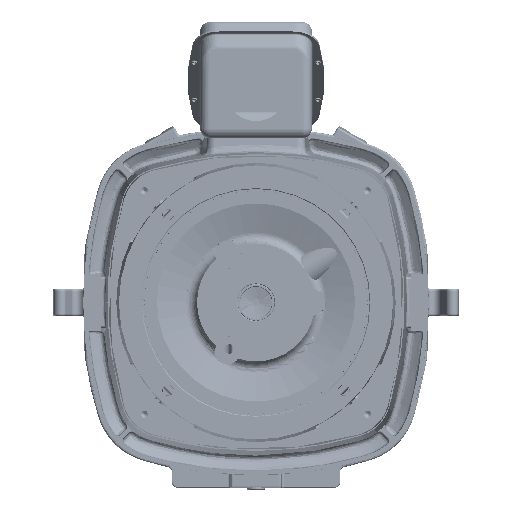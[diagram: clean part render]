
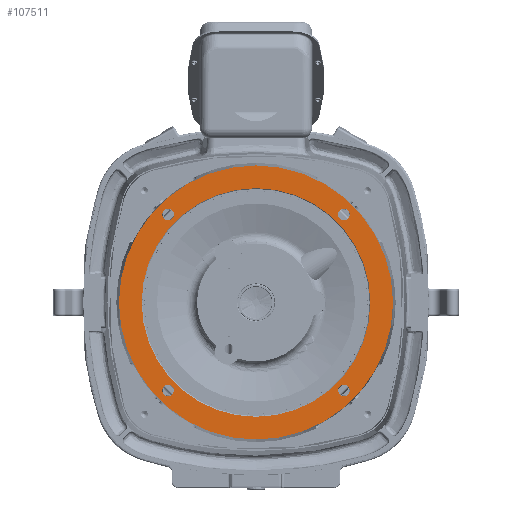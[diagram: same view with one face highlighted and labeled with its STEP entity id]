
A CAD part, front view. The second image highlights one B-rep face of the part: STEP entity #107511.
In plain terms, the highlighted planar face has unit normal (0, -1, 0) as drawn and (0, 0, -1) by its records, which use the part's own axes.
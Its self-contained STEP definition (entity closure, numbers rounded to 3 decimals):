
#98704=CARTESIAN_POINT('',(0.,0.,-5.09));
#98705=DIRECTION('',(0.,0.,-1.));
#98706=DIRECTION('',(0.,-1.,0.));
#98707=AXIS2_PLACEMENT_3D('',#98704,#98705,#98706);
#98709=CARTESIAN_POINT('',(0.,0.,-5.09));
#98710=DIRECTION('',(0.,0.,-1.));
#98711=DIRECTION('',(0.,1.,0.));
#98712=AXIS2_PLACEMENT_3D('',#98709,#98710,#98711);
#98714=CARTESIAN_POINT('',(-5.215,5.215,-5.09));
#98715=DIRECTION('',(0.,0.,-1.));
#98716=DIRECTION('',(0.,1.,0.));
#98717=AXIS2_PLACEMENT_3D('',#98714,#98715,#98716);
#98719=CARTESIAN_POINT('',(-5.215,5.215,-5.09));
#98720=DIRECTION('',(0.,0.,-1.));
#98721=DIRECTION('',(0.,-1.,0.));
#98722=AXIS2_PLACEMENT_3D('',#98719,#98720,#98721);
#98724=CARTESIAN_POINT('',(5.215,5.215,-5.09));
#98725=DIRECTION('',(0.,0.,-1.));
#98726=DIRECTION('',(1.,0.,0.));
#98727=AXIS2_PLACEMENT_3D('',#98724,#98725,#98726);
#98729=CARTESIAN_POINT('',(5.215,5.215,-5.09));
#98730=DIRECTION('',(0.,0.,-1.));
#98731=DIRECTION('',(-1.,0.,0.));
#98732=AXIS2_PLACEMENT_3D('',#98729,#98730,#98731);
#98734=CARTESIAN_POINT('',(5.215,-5.215,-5.09));
#98735=DIRECTION('',(0.,0.,-1.));
#98736=DIRECTION('',(0.,-1.,0.));
#98737=AXIS2_PLACEMENT_3D('',#98734,#98735,#98736);
#98739=CARTESIAN_POINT('',(5.215,-5.215,-5.09));
#98740=DIRECTION('',(0.,0.,-1.));
#98741=DIRECTION('',(0.,1.,0.));
#98742=AXIS2_PLACEMENT_3D('',#98739,#98740,#98741);
#98744=CARTESIAN_POINT('',(-5.215,-5.215,-5.09));
#98745=DIRECTION('',(0.,0.,-1.));
#98746=DIRECTION('',(-1.,0.,0.));
#98747=AXIS2_PLACEMENT_3D('',#98744,#98745,#98746);
#98749=CARTESIAN_POINT('',(-5.215,-5.215,-5.09));
#98750=DIRECTION('',(0.,0.,-1.));
#98751=DIRECTION('',(1.,0.,0.));
#98752=AXIS2_PLACEMENT_3D('',#98749,#98750,#98751);
#98754=CARTESIAN_POINT('',(0.,0.,-5.09));
#98755=DIRECTION('',(0.,0.,1.));
#98756=DIRECTION('',(0.,1.,0.));
#98757=AXIS2_PLACEMENT_3D('',#98754,#98755,#98756);
#98767=CARTESIAN_POINT('',(0.,0.,-5.09));
#98768=DIRECTION('',(0.,0.,-1.));
#98769=DIRECTION('',(0.,1.,0.));
#98770=AXIS2_PLACEMENT_3D('',#98767,#98768,#98769);
#105802=CARTESIAN_POINT('',(0.,-8.13,-5.09));
#105803=CARTESIAN_POINT('',(0.,8.13,-5.09));
#105804=VERTEX_POINT('',#105802);
#105805=VERTEX_POINT('',#105803);
#106144=CARTESIAN_POINT('',(-5.215,5.559,-5.09));
#106145=CARTESIAN_POINT('',(-5.215,4.871,-5.09));
#106146=VERTEX_POINT('',#106144);
#106147=VERTEX_POINT('',#106145);
#106156=CARTESIAN_POINT('',(5.559,5.215,-5.09));
#106157=CARTESIAN_POINT('',(4.871,5.215,-5.09));
#106158=VERTEX_POINT('',#106156);
#106159=VERTEX_POINT('',#106157);
#106164=CARTESIAN_POINT('',(5.215,-5.559,-5.09));
#106165=CARTESIAN_POINT('',(5.215,-4.871,-5.09));
#106166=VERTEX_POINT('',#106164);
#106167=VERTEX_POINT('',#106165);
#106168=CARTESIAN_POINT('',(-5.559,-5.215,-5.09));
#106169=CARTESIAN_POINT('',(-4.871,-5.215,-5.09));
#106170=VERTEX_POINT('',#106168);
#106171=VERTEX_POINT('',#106169);
#106858=CARTESIAN_POINT('',(0.,6.781,-5.09));
#106859=VERTEX_POINT('',#106858);
#106864=CARTESIAN_POINT('',(0.,-6.781,-5.09));
#106865=VERTEX_POINT('',#106864);
#107471=CARTESIAN_POINT('',(0.,0.,-5.09));
#107472=DIRECTION('',(0.,0.,1.));
#107473=DIRECTION('',(0.,1.,0.));
#107474=AXIS2_PLACEMENT_3D('',#107471,#107472,#107473);
#107475=PLANE('',#107474);
#107476=ORIENTED_EDGE('',*,*,#107447,.F.);
#107478=ORIENTED_EDGE('',*,*,#107477,.F.);
#107479=EDGE_LOOP('',(#107476,#107478));
#107480=FACE_OUTER_BOUND('',#107479,.F.);
#107482=ORIENTED_EDGE('',*,*,#107481,.F.);
#107484=ORIENTED_EDGE('',*,*,#107483,.T.);
#107485=EDGE_LOOP('',(#107482,#107484));
#107486=FACE_BOUND('',#107485,.F.);
#107488=ORIENTED_EDGE('',*,*,#107487,.T.);
#107490=ORIENTED_EDGE('',*,*,#107489,.T.);
#107491=EDGE_LOOP('',(#107488,#107490));
#107492=FACE_BOUND('',#107491,.F.);
#107494=ORIENTED_EDGE('',*,*,#107493,.T.);
#107496=ORIENTED_EDGE('',*,*,#107495,.T.);
#107497=EDGE_LOOP('',(#107494,#107496));
#107498=FACE_BOUND('',#107497,.F.);
#107500=ORIENTED_EDGE('',*,*,#107499,.T.);
#107502=ORIENTED_EDGE('',*,*,#107501,.T.);
#107503=EDGE_LOOP('',(#107500,#107502));
#107504=FACE_BOUND('',#107503,.F.);
#107506=ORIENTED_EDGE('',*,*,#107505,.T.);
#107508=ORIENTED_EDGE('',*,*,#107507,.T.);
#107509=EDGE_LOOP('',(#107506,#107508));
#107510=FACE_BOUND('',#107509,.F.);
#107511=ADVANCED_FACE('',(#107480,#107486,#107492,#107498,#107504,#107510),
#107475,.F.);
#98708=CIRCLE('',#98707,8.13);
#98713=CIRCLE('',#98712,8.13);
#98718=CIRCLE('',#98717,0.344);
#98723=CIRCLE('',#98722,0.344);
#98728=CIRCLE('',#98727,0.344);
#98733=CIRCLE('',#98732,0.344);
#98738=CIRCLE('',#98737,0.344);
#98743=CIRCLE('',#98742,0.344);
#98748=CIRCLE('',#98747,0.344);
#98753=CIRCLE('',#98752,0.344);
#98758=CIRCLE('',#98757,6.781);
#98771=CIRCLE('',#98770,6.781);
#107447=EDGE_CURVE('',#105804,#105805,#98708,.T.);
#107477=EDGE_CURVE('',#105805,#105804,#98713,.T.);
#107481=EDGE_CURVE('',#106859,#106865,#98758,.T.);
#107483=EDGE_CURVE('',#106859,#106865,#98771,.T.);
#107487=EDGE_CURVE('',#106146,#106147,#98718,.T.);
#107489=EDGE_CURVE('',#106147,#106146,#98723,.T.);
#107493=EDGE_CURVE('',#106158,#106159,#98728,.T.);
#107495=EDGE_CURVE('',#106159,#106158,#98733,.T.);
#107499=EDGE_CURVE('',#106166,#106167,#98738,.T.);
#107501=EDGE_CURVE('',#106167,#106166,#98743,.T.);
#107505=EDGE_CURVE('',#106170,#106171,#98748,.T.);
#107507=EDGE_CURVE('',#106171,#106170,#98753,.T.);
